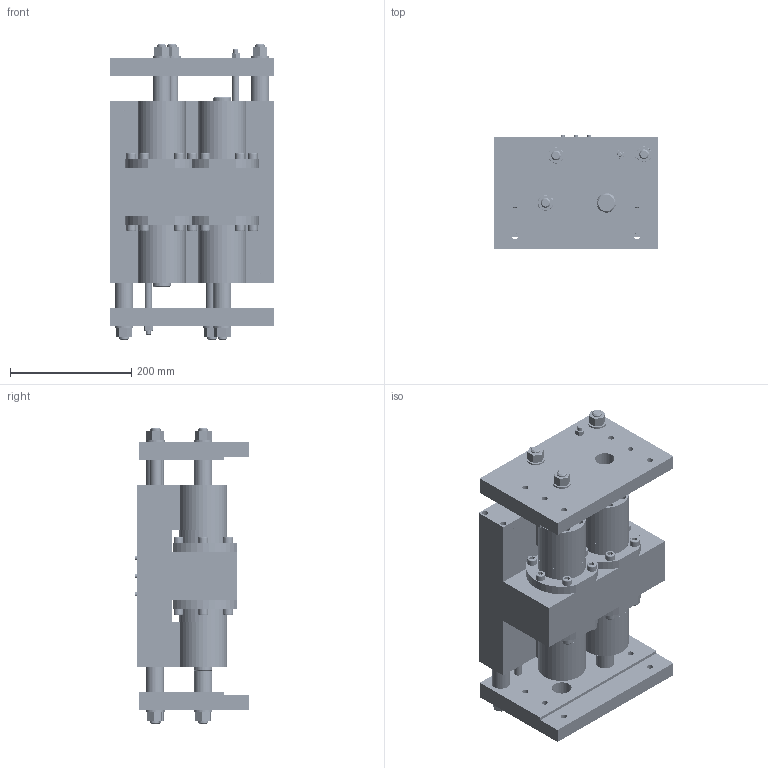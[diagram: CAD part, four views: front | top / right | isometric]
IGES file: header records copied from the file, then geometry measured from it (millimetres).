
Start section: SolidWorks IGES FILE using analytic representation for surfaces
Global section: file name: C:\Documents and Settings\TEDPI\Bureau\GST 80 CLOSE.IGS; native system: SolidWorks 2004 by SolidWorks Corporation; preprocessor: Version 5.3; author: TEDPI; date: 061213.154359; units: millimetre
Bounding box: 270 x 187 x 486.6 mm (x, y, z)
Surface area: 1882494.1 mm2 (no closed solid volume)
Topology: 0 solids, 0 shells, 4289 faces, 87008 edges, 86668 vertices
Faces by surface type: revolution 2498, bspline 1791
